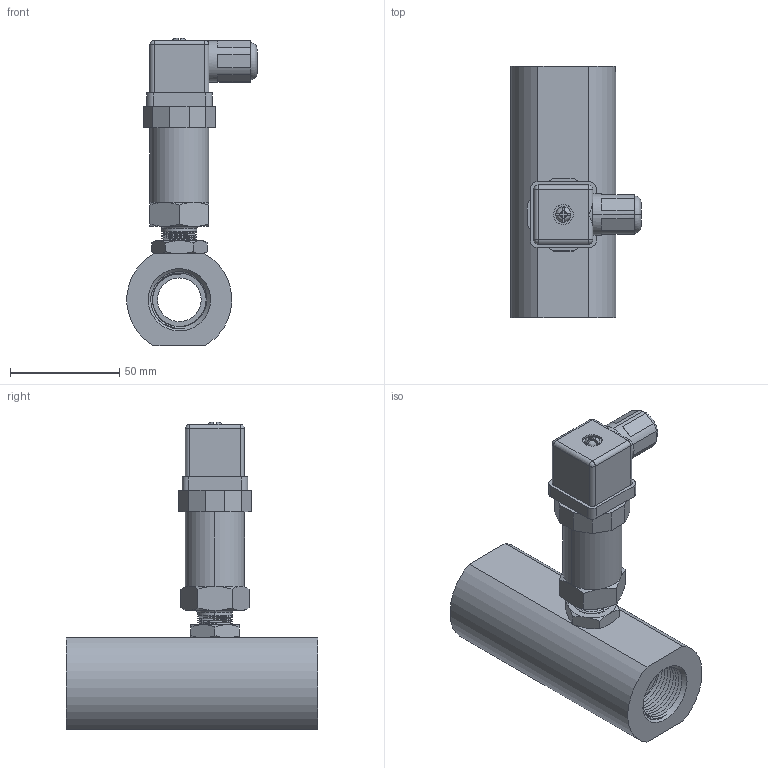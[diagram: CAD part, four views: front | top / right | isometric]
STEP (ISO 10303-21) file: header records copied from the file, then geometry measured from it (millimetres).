
FILE_DESCRIPTION( (''), '2;1');
FILE_NAME( 'QTKB_DN20_female-thread_DIN-plug.step', '2024-10-14T08:17:17+08:00', (''), (''), '', '', '');
FILE_SCHEMA (('AUTOMOTIVE_DESIGN { 1 0 10303 214 3 1 1 1 }'));
Length unit declared in the file: millimetre
Products named in the file (1): QTKB DN20_female-thread_DIN-plug
Bounding box: 59.42 x 115 x 140.5 mm (x, y, z)
Volume: 220275.2 mm3; surface area: 50300.8 mm2
Topology: 5 solids, 6 shells, 383 faces, 1017 edges, 663 vertices
Faces by surface type: plane 245, cylinder 55, cone 39, bspline 36, torus 4, sphere 4
Full cylindrical faces by diameter (mm): 15 x1, 20 x1, 24.5 x2
Entity records: 17076 total; most frequent: CARTESIAN_POINT 7890, ORIENTED_EDGE 2002, DIRECTION 1681, EDGE_CURVE 1001, VERTEX_POINT 658, LINE 635, VECTOR 635, AXIS2_PLACEMENT_3D 523
